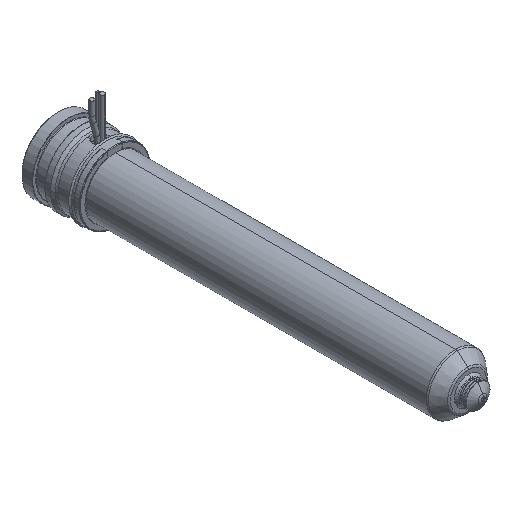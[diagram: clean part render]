
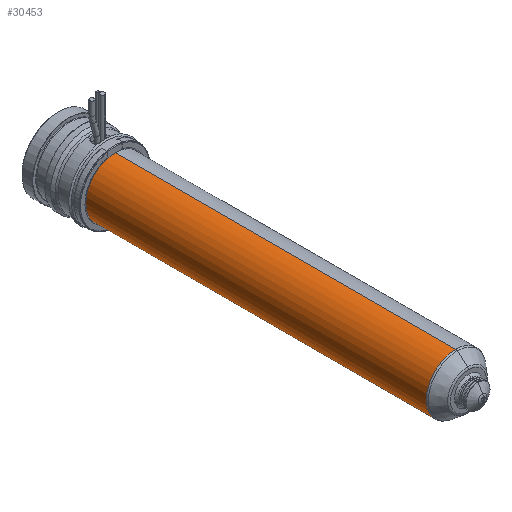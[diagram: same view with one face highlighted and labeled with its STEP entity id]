
A CAD part, isometric view. The second image highlights one B-rep face of the part: STEP entity #30453.
In plain terms, the highlighted cylindrical face has radius 12 mm (diameter 24 mm), a partial arc.
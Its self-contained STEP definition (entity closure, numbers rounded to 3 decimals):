
#29844=CARTESIAN_POINT('',(0.,-163.736,0.));
#29845=DIRECTION('',(0.,-1.,0.));
#29846=DIRECTION('',(0.,0.,1.));
#29847=AXIS2_PLACEMENT_3D('',#29844,#29845,#29846);
#29852=CARTESIAN_POINT('',(0.,-24.,0.));
#29853=DIRECTION('',(0.,1.,0.));
#29854=DIRECTION('',(0.,0.,-1.));
#29855=AXIS2_PLACEMENT_3D('',#29852,#29853,#29854);
#29860=DIRECTION('',(0.,1.,0.));
#29861=VECTOR('',#29860,139.736);
#29862=CARTESIAN_POINT('',(0.,-163.736,12.));
#29863=LINE('',#29862,#29861);
#29875=DIRECTION('',(0.,1.,0.));
#29876=VECTOR('',#29875,139.736);
#29877=CARTESIAN_POINT('',(0.,-163.736,-12.));
#29878=LINE('',#29877,#29876);
#30058=CARTESIAN_POINT('',(0.,-163.736,12.));
#30059=CARTESIAN_POINT('',(0.,-24.,12.));
#30060=VERTEX_POINT('',#30058);
#30061=VERTEX_POINT('',#30059);
#30062=CARTESIAN_POINT('',(0.,-163.736,-12.));
#30063=CARTESIAN_POINT('',(0.,-24.,-12.));
#30064=VERTEX_POINT('',#30062);
#30065=VERTEX_POINT('',#30063);
#30439=CARTESIAN_POINT('',(0.,-12.2,0.));
#30440=DIRECTION('',(0.,-1.,0.));
#30441=DIRECTION('',(0.,0.,1.));
#30442=AXIS2_PLACEMENT_3D('',#30439,#30440,#30441);
#30443=CYLINDRICAL_SURFACE('',#30442,12.);
#30445=ORIENTED_EDGE('',*,*,#30444,.F.);
#30446=ORIENTED_EDGE('',*,*,#30434,.T.);
#30448=ORIENTED_EDGE('',*,*,#30447,.T.);
#30450=ORIENTED_EDGE('',*,*,#30449,.T.);
#30451=EDGE_LOOP('',(#30445,#30446,#30448,#30450));
#30452=FACE_OUTER_BOUND('',#30451,.F.);
#30453=ADVANCED_FACE('',(#30452),#30443,.T.);
#29848=CIRCLE('',#29847,12.);
#29856=CIRCLE('',#29855,12.);
#30434=EDGE_CURVE('',#30060,#30064,#29848,.T.);
#30444=EDGE_CURVE('',#30060,#30061,#29863,.T.);
#30447=EDGE_CURVE('',#30064,#30065,#29878,.T.);
#30449=EDGE_CURVE('',#30065,#30061,#29856,.T.);
